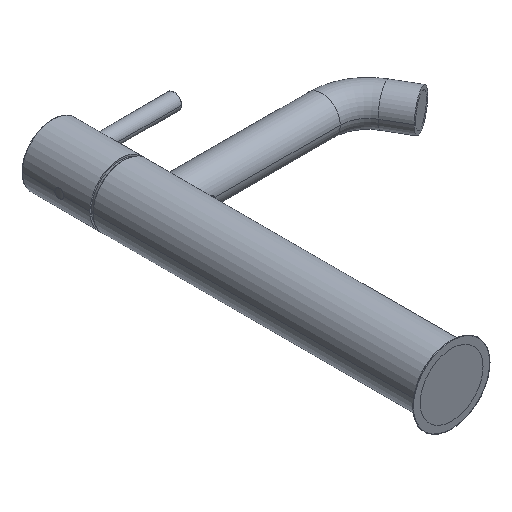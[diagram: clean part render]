
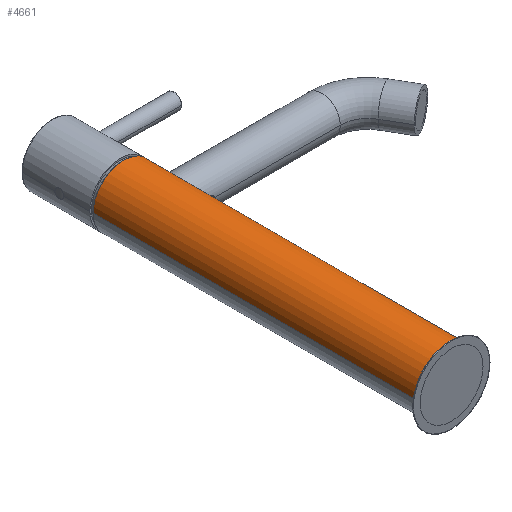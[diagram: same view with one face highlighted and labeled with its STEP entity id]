
A CAD part, isometric view. The second image highlights one B-rep face of the part: STEP entity #4661.
In plain terms, the highlighted cylindrical face has radius 20 mm (diameter 40 mm), a partial arc.
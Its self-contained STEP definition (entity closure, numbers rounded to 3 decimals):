
#1101=CARTESIAN_POINT('',(20.,207.,0.));
#1102=CARTESIAN_POINT('',(20.,207.,0.15));
#1103=CARTESIAN_POINT('',(19.997,206.994,0.451));
#1104=CARTESIAN_POINT('',(19.981,206.969,0.903));
#1105=CARTESIAN_POINT('',(19.956,206.926,1.354));
#1106=CARTESIAN_POINT('',(19.92,206.866,1.805));
#1107=CARTESIAN_POINT('',(19.874,206.789,2.255));
#1108=CARTESIAN_POINT('',(19.818,206.694,2.705));
#1109=CARTESIAN_POINT('',(19.752,206.581,3.153));
#1110=CARTESIAN_POINT('',(19.675,206.45,3.6));
#1111=CARTESIAN_POINT('',(19.588,206.301,4.046));
#1112=CARTESIAN_POINT('',(19.492,206.132,4.489));
#1113=CARTESIAN_POINT('',(19.385,205.945,4.929));
#1114=CARTESIAN_POINT('',(19.268,205.737,5.366));
#1115=CARTESIAN_POINT('',(19.143,205.51,5.798));
#1116=CARTESIAN_POINT('',(19.008,205.263,6.226));
#1117=CARTESIAN_POINT('',(18.865,204.995,6.647));
#1118=CARTESIAN_POINT('',(18.714,204.708,7.06));
#1119=CARTESIAN_POINT('',(18.556,204.4,7.465));
#1120=CARTESIAN_POINT('',(18.393,204.073,7.859));
#1121=CARTESIAN_POINT('',(18.224,203.727,8.242));
#1122=CARTESIAN_POINT('',(18.053,203.363,8.611));
#1123=CARTESIAN_POINT('',(17.88,202.983,8.964));
#1124=CARTESIAN_POINT('',(17.707,202.588,9.301));
#1125=CARTESIAN_POINT('',(17.536,202.181,9.619));
#1126=CARTESIAN_POINT('',(17.369,201.761,9.918));
#1127=CARTESIAN_POINT('',(17.206,201.333,10.197));
#1128=CARTESIAN_POINT('',(17.051,200.899,10.454));
#1129=CARTESIAN_POINT('',(16.904,200.46,10.69));
#1130=CARTESIAN_POINT('',(16.767,200.018,10.904));
#1131=CARTESIAN_POINT('',(16.639,199.575,11.097));
#1132=CARTESIAN_POINT('',(16.523,199.132,11.27));
#1133=CARTESIAN_POINT('',(16.418,198.689,11.422));
#1134=CARTESIAN_POINT('',(16.325,198.249,11.555));
#1135=CARTESIAN_POINT('',(16.243,197.81,11.669));
#1136=CARTESIAN_POINT('',(16.173,197.373,11.766));
#1137=CARTESIAN_POINT('',(16.115,196.938,11.845));
#1138=CARTESIAN_POINT('',(16.069,196.505,11.908));
#1139=CARTESIAN_POINT('',(16.034,196.074,11.954));
#1140=CARTESIAN_POINT('',(16.011,195.644,11.985));
#1141=CARTESIAN_POINT('',(16.,195.214,12.001));
#1142=CARTESIAN_POINT('',(16.,194.786,12.001));
#1143=CARTESIAN_POINT('',(16.011,194.356,11.985));
#1144=CARTESIAN_POINT('',(16.034,193.926,11.954));
#1145=CARTESIAN_POINT('',(16.069,193.495,11.908));
#1146=CARTESIAN_POINT('',(16.115,193.062,11.845));
#1147=CARTESIAN_POINT('',(16.173,192.627,11.766));
#1148=CARTESIAN_POINT('',(16.243,192.19,11.669));
#1149=CARTESIAN_POINT('',(16.325,191.751,11.555));
#1150=CARTESIAN_POINT('',(16.418,191.311,11.422));
#1151=CARTESIAN_POINT('',(16.523,190.868,11.27));
#1152=CARTESIAN_POINT('',(16.639,190.425,11.097));
#1153=CARTESIAN_POINT('',(16.767,189.982,10.904));
#1154=CARTESIAN_POINT('',(16.904,189.54,10.69));
#1155=CARTESIAN_POINT('',(17.051,189.101,10.454));
#1156=CARTESIAN_POINT('',(17.206,188.667,10.197));
#1157=CARTESIAN_POINT('',(17.369,188.239,9.918));
#1158=CARTESIAN_POINT('',(17.536,187.819,9.619));
#1159=CARTESIAN_POINT('',(17.707,187.412,9.301));
#1160=CARTESIAN_POINT('',(17.88,187.017,8.964));
#1161=CARTESIAN_POINT('',(18.053,186.637,8.611));
#1162=CARTESIAN_POINT('',(18.224,186.273,8.242));
#1163=CARTESIAN_POINT('',(18.393,185.927,7.859));
#1164=CARTESIAN_POINT('',(18.556,185.6,7.465));
#1165=CARTESIAN_POINT('',(18.714,185.293,7.06));
#1166=CARTESIAN_POINT('',(18.865,185.005,6.647));
#1167=CARTESIAN_POINT('',(19.008,184.737,6.226));
#1168=CARTESIAN_POINT('',(19.143,184.49,5.798));
#1169=CARTESIAN_POINT('',(19.268,184.263,5.366));
#1170=CARTESIAN_POINT('',(19.385,184.055,4.929));
#1171=CARTESIAN_POINT('',(19.492,183.868,4.489));
#1172=CARTESIAN_POINT('',(19.588,183.699,4.046));
#1173=CARTESIAN_POINT('',(19.675,183.55,3.6));
#1174=CARTESIAN_POINT('',(19.752,183.419,3.153));
#1175=CARTESIAN_POINT('',(19.818,183.306,2.705));
#1176=CARTESIAN_POINT('',(19.874,183.211,2.255));
#1177=CARTESIAN_POINT('',(19.92,183.134,1.805));
#1178=CARTESIAN_POINT('',(19.956,183.074,1.354));
#1179=CARTESIAN_POINT('',(19.981,183.031,0.903));
#1180=CARTESIAN_POINT('',(19.997,183.006,0.451));
#1181=CARTESIAN_POINT('',(20.,183.,0.15));
#1182=CARTESIAN_POINT('',(20.,183.,0.));
#1184=CARTESIAN_POINT('',(0.,213.8,0.));
#1185=DIRECTION('',(0.,-1.,0.));
#1186=DIRECTION('',(1.,0.,0.));
#1187=AXIS2_PLACEMENT_3D('',#1184,#1185,#1186);
#1272=DIRECTION('',(0.,-1.,0.));
#1273=VECTOR('',#1272,6.8);
#1274=CARTESIAN_POINT('',(20.,213.8,0.));
#1275=LINE('',#1274,#1273);
#1281=DIRECTION('',(0.,-1.,0.));
#1282=VECTOR('',#1281,209.8);
#1283=CARTESIAN_POINT('',(-20.,213.8,0.));
#1284=LINE('',#1283,#1282);
#1285=DIRECTION('',(0.,-1.,0.));
#1286=VECTOR('',#1285,179.);
#1287=CARTESIAN_POINT('',(20.,183.,0.));
#1288=LINE('',#1287,#1286);
#2769=CARTESIAN_POINT('',(0.,4.,0.));
#2770=DIRECTION('',(0.,1.,0.));
#2771=DIRECTION('',(-1.,0.,0.));
#2772=AXIS2_PLACEMENT_3D('',#2769,#2770,#2771);
#2989=CARTESIAN_POINT('',(20.,213.8,0.));
#2990=CARTESIAN_POINT('',(-20.,213.8,0.));
#2991=VERTEX_POINT('',#2989);
#2992=VERTEX_POINT('',#2990);
#3021=CARTESIAN_POINT('',(-20.,4.,0.));
#3022=CARTESIAN_POINT('',(20.,4.,0.));
#3023=VERTEX_POINT('',#3021);
#3024=VERTEX_POINT('',#3022);
#3196=VERTEX_POINT('',#1101);
#3197=VERTEX_POINT('',#1182);
#4643=CARTESIAN_POINT('',(0.,-6.5,0.));
#4644=DIRECTION('',(0.,1.,0.));
#4645=DIRECTION('',(1.,0.,0.));
#4646=AXIS2_PLACEMENT_3D('',#4643,#4644,#4645);
#4647=CYLINDRICAL_SURFACE('',#4646,20.);
#4648=ORIENTED_EDGE('',*,*,#4620,.T.);
#4650=ORIENTED_EDGE('',*,*,#4649,.T.);
#4652=ORIENTED_EDGE('',*,*,#4651,.F.);
#4654=ORIENTED_EDGE('',*,*,#4653,.F.);
#4656=ORIENTED_EDGE('',*,*,#4655,.F.);
#4658=ORIENTED_EDGE('',*,*,#4657,.T.);
#4659=EDGE_LOOP('',(#4648,#4650,#4652,#4654,#4656,#4658));
#4660=FACE_OUTER_BOUND('',#4659,.F.);
#1183=B_SPLINE_CURVE_WITH_KNOTS('',3,(#1101,#1102,#1103,#1104,#1105,#1106,#1107,
#1108,#1109,#1110,#1111,#1112,#1113,#1114,#1115,#1116,#1117,#1118,#1119,#1120,
#1121,#1122,#1123,#1124,#1125,#1126,#1127,#1128,#1129,#1130,#1131,#1132,#1133,
#1134,#1135,#1136,#1137,#1138,#1139,#1140,#1141,#1142,#1143,#1144,#1145,#1146,
#1147,#1148,#1149,#1150,#1151,#1152,#1153,#1154,#1155,#1156,#1157,#1158,#1159,
#1160,#1161,#1162,#1163,#1164,#1165,#1166,#1167,#1168,#1169,#1170,#1171,#1172,
#1173,#1174,#1175,#1176,#1177,#1178,#1179,#1180,#1181,#1182),.UNSPECIFIED.,.F.,
.F.,(4,1,1,1,1,1,1,1,1,1,1,1,1,1,1,1,1,1,1,1,1,1,1,1,1,1,1,1,1,1,1,1,1,1,1,1,1,
1,1,1,1,1,1,1,1,1,1,1,1,1,1,1,1,1,1,1,1,1,1,1,1,1,1,1,1,1,1,1,1,1,1,1,1,1,1,1,1,
1,1,4),(0.,0.013,0.025,0.038,
0.051,0.063,0.076,0.089,
0.101,0.114,0.127,0.139,
0.152,0.165,0.177,0.19,
0.203,0.215,0.228,0.241,
0.253,0.266,0.278,0.291,
0.304,0.316,0.329,0.342,
0.354,0.367,0.38,0.392,
0.405,0.418,0.43,0.443,
0.456,0.468,0.481,0.494,
0.506,0.519,0.532,0.544,
0.557,0.57,0.582,0.595,
0.608,0.62,0.633,0.646,
0.658,0.671,0.684,0.696,
0.709,0.722,0.734,0.747,
0.759,0.772,0.785,0.797,
0.81,0.823,0.835,0.848,
0.861,0.873,0.886,0.899,
0.911,0.924,0.937,0.949,
0.962,0.975,0.987,1.),.UNSPECIFIED.);
#1188=CIRCLE('',#1187,20.);
#2773=CIRCLE('',#2772,20.);
#4620=EDGE_CURVE('',#3196,#3197,#1183,.T.);
#4649=EDGE_CURVE('',#3197,#3024,#1288,.T.);
#4651=EDGE_CURVE('',#3023,#3024,#2773,.T.);
#4653=EDGE_CURVE('',#2992,#3023,#1284,.T.);
#4655=EDGE_CURVE('',#2991,#2992,#1188,.T.);
#4657=EDGE_CURVE('',#2991,#3196,#1275,.T.);
#4661=ADVANCED_FACE('',(#4660),#4647,.T.);
